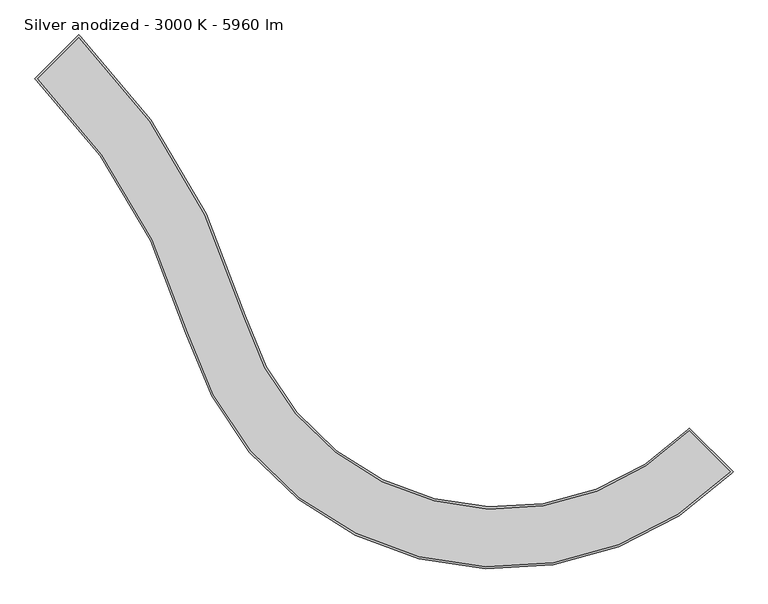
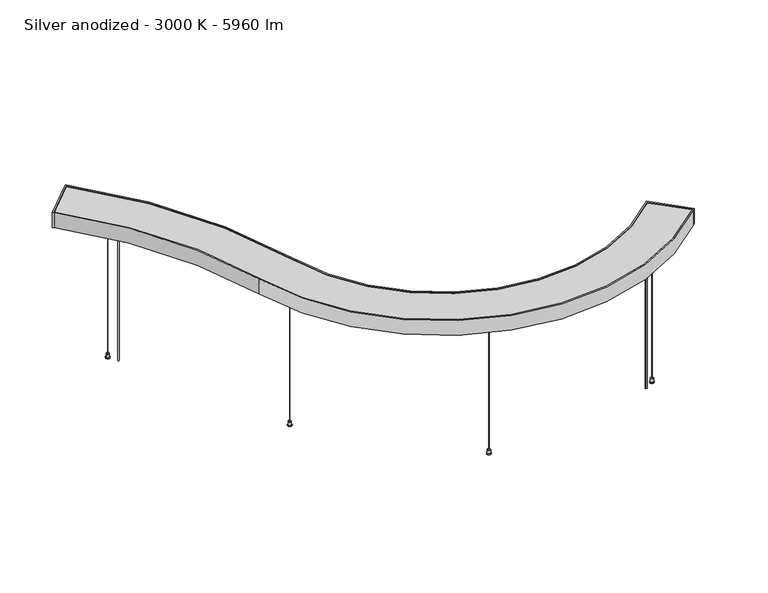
"""IFC4 building model written with IfcOpenShell, lengths in millimetres: light fixture geometry, KLUŚ - MIFOR - MI-SNAKE-03 : Silver anodized - 3000 K - 5960 lm."""

from ifc_helpers import new_model, si_unit, point, frame, frame_2d, origin, origin_with_axes, place, context, project, spatial, polyline, circle_curve, trimmed, segment, composite_curve, outline, extrude, source, transform, mapped, element, save


def silver_anodized_3000_k_5960_lm_fe325a2c(model_context):
    return source(origin(), model_context, "Body", "SweptSolid", [
        extrude(outline(composite_curve([segment(trimmed(circle_curve(frame_2d((672.9591709, -453.7760206)), 1.75), [point((674.7091709, -453.7760206))], [point((671.2091709, -453.7760206))], False, "CARTESIAN"), True, "CONTINUOUS"), segment(trimmed(circle_curve(frame_2d((672.9591709, -453.7760206)), 1.75), [point((671.2091709, -453.7760206))], [point((674.7091709, -453.7760206))], False, "CARTESIAN"), True, "CONTINUOUS")], self_intersect=False)), frame((0.0, 0.0, 500.5), z_axis=(0.0, 0.0, 1.0), x_axis=(1.0, 0.0, 0.0)), (0.0, 0.0, 1.0), 3.5),
        extrude(outline(composite_curve([segment(trimmed(circle_curve(frame_2d((58.0324122, -532.928288)), 1.75), [point((59.7824122, -532.928288))], [point((56.2824122, -532.928288))], False, "CARTESIAN"), True, "CONTINUOUS"), segment(trimmed(circle_curve(frame_2d((58.0324122, -532.928288)), 1.75), [point((56.2824122, -532.928288))], [point((59.7824122, -532.928288))], False, "CARTESIAN"), True, "CONTINUOUS")], self_intersect=False)), frame((0.0, 0.0, 500.5), z_axis=(0.0, 0.0, 1.0), x_axis=(1.0, 0.0, 0.0)), (0.0, 0.0, 1.0), 3.5),
        extrude(outline(composite_curve([segment(trimmed(circle_curve(frame_2d((-389.0451569, -103.1934485)), 1.75), [point((-387.2951569, -103.1934485))], [point((-390.7951569, -103.1934485))], False, "CARTESIAN"), True, "CONTINUOUS"), segment(trimmed(circle_curve(frame_2d((-389.0451569, -103.1934485)), 1.75), [point((-390.7951569, -103.1934485))], [point((-387.2951569, -103.1934485))], False, "CARTESIAN"), True, "CONTINUOUS")], self_intersect=False)), frame((0.0, 0.0, 500.5), z_axis=(0.0, 0.0, 1.0), x_axis=(1.0, 0.0, 0.0)), (0.0, 0.0, 1.0), 3.5),
        extrude(outline(composite_curve([segment(trimmed(circle_curve(frame_2d((-686.7353542, 481.8418012)), 1.75), [point((-684.9853542, 481.8418012))], [point((-688.4853542, 481.8418012))], False, "CARTESIAN"), True, "CONTINUOUS"), segment(trimmed(circle_curve(frame_2d((-686.7353542, 481.8418012)), 1.75), [point((-688.4853542, 481.8418012))], [point((-684.9853542, 481.8418012))], False, "CARTESIAN"), True, "CONTINUOUS")], self_intersect=False)), frame((0.0, 0.0, 500.5), z_axis=(0.0, 0.0, 1.0), x_axis=(1.0, 0.0, 0.0)), (0.0, 0.0, 1.0), 3.5),
        extrude(outline(composite_curve([segment(trimmed(circle_curve(frame_2d((672.9591709, -453.7760206)), 5.0), [point((677.9591709, -453.7760206))], [point((667.9591709, -453.7760206))], False, "CARTESIAN"), True, "CONTINUOUS"), segment(trimmed(circle_curve(frame_2d((672.9591709, -453.7760206)), 5.0), [point((667.9591709, -453.7760206))], [point((677.9591709, -453.7760206))], False, "CARTESIAN"), True, "CONTINUOUS")], self_intersect=False)), frame((0.0, 0.0, 3.0), z_axis=(0.0, 0.0, 1.0), x_axis=(1.0, 0.0, 0.0)), (0.0, 0.0, 1.0), 12.0),
        extrude(outline(composite_curve([segment(trimmed(circle_curve(frame_2d((58.0324122, -532.928288)), 5.0), [point((63.0324122, -532.928288))], [point((53.0324122, -532.928288))], False, "CARTESIAN"), True, "CONTINUOUS"), segment(trimmed(circle_curve(frame_2d((58.0324122, -532.928288)), 5.0), [point((53.0324122, -532.928288))], [point((63.0324122, -532.928288))], False, "CARTESIAN"), True, "CONTINUOUS")], self_intersect=False)), frame((0.0, 0.0, 3.0), z_axis=(0.0, 0.0, 1.0), x_axis=(1.0, 0.0, 0.0)), (0.0, 0.0, 1.0), 12.0),
        extrude(outline(composite_curve([segment(trimmed(circle_curve(frame_2d((-389.0451569, -103.1934485)), 5.0), [point((-384.0451569, -103.1934485))], [point((-394.0451569, -103.1934485))], False, "CARTESIAN"), True, "CONTINUOUS"), segment(trimmed(circle_curve(frame_2d((-389.0451569, -103.1934485)), 5.0), [point((-394.0451569, -103.1934485))], [point((-384.0451569, -103.1934485))], False, "CARTESIAN"), True, "CONTINUOUS")], self_intersect=False)), frame((0.0, 0.0, 3.0), z_axis=(0.0, 0.0, 1.0), x_axis=(1.0, 0.0, 0.0)), (0.0, 0.0, 1.0), 12.0),
        extrude(outline(composite_curve([segment(trimmed(circle_curve(frame_2d((-686.7353542, 481.8418012)), 5.0), [point((-681.7353542, 481.8418012))], [point((-691.7353542, 481.8418012))], False, "CARTESIAN"), True, "CONTINUOUS"), segment(trimmed(circle_curve(frame_2d((-686.7353542, 481.8418012)), 5.0), [point((-691.7353542, 481.8418012))], [point((-681.7353542, 481.8418012))], False, "CARTESIAN"), True, "CONTINUOUS")], self_intersect=False)), frame((0.0, 0.0, 3.0), z_axis=(0.0, 0.0, 1.0), x_axis=(1.0, 0.0, 0.0)), (0.0, 0.0, 1.0), 12.0),
        extrude(outline(composite_curve([segment(trimmed(circle_curve(frame_2d((642.6195188, -472.545118)), 2.5), [point((645.1195188, -472.545118))], [point((640.1195188, -472.545118))], False, "CARTESIAN"), True, "CONTINUOUS"), segment(trimmed(circle_curve(frame_2d((642.6195188, -472.545118)), 2.5), [point((640.1195188, -472.545118))], [point((645.1195188, -472.545118))], False, "CARTESIAN"), True, "CONTINUOUS")], self_intersect=False)), origin_with_axes(), (0.0, 0.0, 1.0), 516.0),
        extrude(outline(composite_curve([segment(trimmed(circle_curve(frame_2d((-665.6709543, 452.5331137)), 2.5), [point((-663.1709543, 452.5331137))], [point((-668.1709543, 452.5331137))], False, "CARTESIAN"), True, "CONTINUOUS"), segment(trimmed(circle_curve(frame_2d((-665.6709543, 452.5331137)), 2.5), [point((-668.1709543, 452.5331137))], [point((-663.1709543, 452.5331137))], False, "CARTESIAN"), True, "CONTINUOUS")], self_intersect=False)), origin_with_axes(), (0.0, 0.0, 1.0), 516.0),
        extrude(outline(composite_curve([segment(polyline([(-838.3688522, 541.0675454), (-739.3739028, 640.0624948)]), True, "CONTINUOUS"), segment(trimmed(circle_curve(frame_2d((-1853.9001753, -474.4637777)), 1576.1781702), [point((-739.3739028, 640.0624948))], [point((-340.279061, -34.8176171))], False, "CARTESIAN"), True, "CONTINUOUS"), segment(trimmed(circle_curve(frame_2d((281.522262, 145.7907014)), 647.5), [point((-340.279061, -34.8176171))], [point((739.3739028, -312.0609394))], True, "CARTESIAN"), True, "CONTINUOUS"), segment(polyline([(739.3739028, -312.0609394), (838.3688522, -411.0558887)]), True, "CONTINUOUS"), segment(trimmed(circle_curve(frame_2d((281.522262, 145.7907014)), 787.5), [point((838.3688522, -411.0558887))], [point((-474.7225903, -73.8680643))], False, "CARTESIAN"), True, "CONTINUOUS"), segment(trimmed(circle_curve(frame_2d((-1853.9001753, -474.4637777)), 1436.1781702), [point((-474.7225903, -73.8680643))], [point((-838.3688522, 541.0675454))], True, "CARTESIAN"), True, "CONTINUOUS")], self_intersect=False)), frame((0.0, 0.0, 516.0), z_axis=(0.0, 0.0, 1.0), x_axis=(1.0, 0.0, 0.0)), (0.0, 0.0, 1.0), 2.0),
        extrude(outline(composite_curve([segment(polyline([(-838.3688522, 541.0675454), (-739.3739028, 640.0624948)]), True, "CONTINUOUS"), segment(trimmed(circle_curve(frame_2d((-1853.9001753, -474.4637777)), 1576.1781702), [point((-739.3739028, 640.0624948))], [point((-340.279061, -34.8176171))], False, "CARTESIAN"), True, "CONTINUOUS"), segment(trimmed(circle_curve(frame_2d((281.522262, 145.7907014)), 647.5), [point((-340.279061, -34.8176171))], [point((739.3739028, -312.0609394))], True, "CARTESIAN"), True, "CONTINUOUS"), segment(polyline([(739.3739028, -312.0609394), (838.3688522, -411.0558887)]), True, "CONTINUOUS"), segment(trimmed(circle_curve(frame_2d((281.522262, 145.7907014)), 787.5), [point((838.3688522, -411.0558887))], [point((-474.7225903, -73.8680643))], False, "CARTESIAN"), True, "CONTINUOUS"), segment(trimmed(circle_curve(frame_2d((-1853.9001753, -474.4637777)), 1436.1781702), [point((-474.7225903, -73.8680643))], [point((-838.3688522, 541.0675454))], True, "CARTESIAN"), True, "CONTINUOUS")], self_intersect=False)), frame((0.0, 0.0, 551.0), z_axis=(0.0, 0.0, 1.0), x_axis=(1.0, 0.0, 0.0)), (0.0, 0.0, 1.0), 2.0),
        extrude(outline(composite_curve([segment(polyline([(-841.9043861, 537.5320115), (-845.43992, 541.0675454), (-739.3739028, 647.1335626), (-735.8383689, 643.5980287)]), True, "CONTINUOUS"), segment(trimmed(circle_curve(frame_2d((-1853.9001753, -474.4637777)), 1581.1781702), [point((-735.8383689, 643.5980287))], [point((-335.4775064, -33.4229582))], False, "CARTESIAN"), True, "CONTINUOUS"), segment(trimmed(circle_curve(frame_2d((281.522262, 145.7907014)), 642.5), [point((-335.4775064, -33.4229582))], [point((735.8383689, -308.5254055))], True, "CARTESIAN"), True, "CONTINUOUS"), segment(polyline([(735.8383689, -308.5254055), (739.3739028, -304.9898716), (845.43992, -411.0558887), (841.9043861, -414.5914226)]), True, "CONTINUOUS"), segment(trimmed(circle_curve(frame_2d((281.522262, 145.7907014)), 792.5), [point((841.9043861, -414.5914226))], [point((-479.5241449, -75.2627231))], False, "CARTESIAN"), True, "CONTINUOUS"), segment(trimmed(circle_curve(frame_2d((-1853.9001753, -474.4637777)), 1431.1781702), [point((-479.5241449, -75.2627231))], [point((-841.9043861, 537.5320115))], True, "CARTESIAN"), True, "CONTINUOUS")], self_intersect=False), holes=[composite_curve([segment(polyline([(-739.3739028, 640.0624948), (-838.3688522, 541.0675454)]), True, "CONTINUOUS"), segment(trimmed(circle_curve(frame_2d((-1853.9001753, -474.4637777)), 1436.1781702), [point((-838.3688522, 541.0675454))], [point((-474.7225903, -73.8680643))], False, "CARTESIAN"), True, "CONTINUOUS"), segment(trimmed(circle_curve(frame_2d((281.522262, 145.7907014)), 787.5), [point((-474.7225903, -73.8680643))], [point((838.3688522, -411.0558887))], True, "CARTESIAN"), True, "CONTINUOUS"), segment(polyline([(838.3688522, -411.0558887), (739.3739028, -312.0609394)]), True, "CONTINUOUS"), segment(trimmed(circle_curve(frame_2d((281.522262, 145.7907014)), 647.5), [point((739.3739028, -312.0609394))], [point((-340.279061, -34.8176171))], False, "CARTESIAN"), True, "CONTINUOUS"), segment(trimmed(circle_curve(frame_2d((-1853.9001753, -474.4637777)), 1576.1781702), [point((-340.279061, -34.8176171))], [point((-739.3739028, 640.0624948))], True, "CARTESIAN"), True, "CONTINUOUS")], self_intersect=False)]), frame((0.0, 0.0, 500.0), z_axis=(0.0, 0.0, 1.0), x_axis=(1.0, 0.0, 0.0)), (0.0, 0.0, 1.0), 55.0),
        extrude(outline(composite_curve([segment(trimmed(circle_curve(frame_2d((672.9591709, -453.7760206)), 0.5), [point((673.4591709, -453.7760206))], [point((672.4591709, -453.7760206))], False, "CARTESIAN"), True, "CONTINUOUS"), segment(trimmed(circle_curve(frame_2d((672.9591709, -453.7760206)), 0.5), [point((672.4591709, -453.7760206))], [point((673.4591709, -453.7760206))], False, "CARTESIAN"), True, "CONTINUOUS")], self_intersect=False)), frame((0.0, 0.0, 15.0), z_axis=(0.0, 0.0, 1.0), x_axis=(1.0, 0.0, 0.0)), (0.0, 0.0, 1.0), 485.5),
        extrude(outline(composite_curve([segment(trimmed(circle_curve(frame_2d((58.0324122, -532.928288)), 0.5), [point((58.5324122, -532.928288))], [point((57.5324122, -532.928288))], False, "CARTESIAN"), True, "CONTINUOUS"), segment(trimmed(circle_curve(frame_2d((58.0324122, -532.928288)), 0.5), [point((57.5324122, -532.928288))], [point((58.5324122, -532.928288))], False, "CARTESIAN"), True, "CONTINUOUS")], self_intersect=False)), frame((0.0, 0.0, 15.0), z_axis=(0.0, 0.0, 1.0), x_axis=(1.0, 0.0, 0.0)), (0.0, 0.0, 1.0), 485.5),
        extrude(outline(composite_curve([segment(trimmed(circle_curve(frame_2d((-389.0451569, -103.1934485)), 0.5), [point((-388.5451569, -103.1934485))], [point((-389.5451569, -103.1934485))], False, "CARTESIAN"), True, "CONTINUOUS"), segment(trimmed(circle_curve(frame_2d((-389.0451569, -103.1934485)), 0.5), [point((-389.5451569, -103.1934485))], [point((-388.5451569, -103.1934485))], False, "CARTESIAN"), True, "CONTINUOUS")], self_intersect=False)), frame((0.0, 0.0, 15.0), z_axis=(0.0, 0.0, 1.0), x_axis=(1.0, 0.0, 0.0)), (0.0, 0.0, 1.0), 485.5),
        extrude(outline(composite_curve([segment(trimmed(circle_curve(frame_2d((-686.7353542, 481.8418012)), 0.5), [point((-686.2353542, 481.8418012))], [point((-687.2353542, 481.8418012))], False, "CARTESIAN"), True, "CONTINUOUS"), segment(trimmed(circle_curve(frame_2d((-686.7353542, 481.8418012)), 0.5), [point((-687.2353542, 481.8418012))], [point((-686.2353542, 481.8418012))], False, "CARTESIAN"), True, "CONTINUOUS")], self_intersect=False)), frame((0.0, 0.0, 15.0), z_axis=(0.0, 0.0, 1.0), x_axis=(1.0, 0.0, 0.0)), (0.0, 0.0, 1.0), 485.5),
        extrude(outline(composite_curve([segment(trimmed(circle_curve(frame_2d((-686.7353542, 481.8418012)), 4.0), [point((-682.7353542, 481.8418012))], [point((-690.7353542, 481.8418012))], False, "CARTESIAN"), True, "CONTINUOUS"), segment(trimmed(circle_curve(frame_2d((-686.7353542, 481.8418012)), 4.0), [point((-690.7353542, 481.8418012))], [point((-682.7353542, 481.8418012))], False, "CARTESIAN"), True, "CONTINUOUS")], self_intersect=False)), frame((0.0, 0.0, 504.0), z_axis=(0.0, 0.0, 1.0), x_axis=(1.0, 0.0, 0.0)), (0.0, 0.0, 1.0), 12.0),
        extrude(outline(composite_curve([segment(trimmed(circle_curve(frame_2d((-389.0451569, -103.1934485)), 4.0), [point((-385.0451569, -103.1934485))], [point((-393.0451569, -103.1934485))], False, "CARTESIAN"), True, "CONTINUOUS"), segment(trimmed(circle_curve(frame_2d((-389.0451569, -103.1934485)), 4.0), [point((-393.0451569, -103.1934485))], [point((-385.0451569, -103.1934485))], False, "CARTESIAN"), True, "CONTINUOUS")], self_intersect=False)), frame((0.0, 0.0, 504.0), z_axis=(0.0, 0.0, 1.0), x_axis=(1.0, 0.0, 0.0)), (0.0, 0.0, 1.0), 12.0),
        extrude(outline(composite_curve([segment(trimmed(circle_curve(frame_2d((58.0324122, -532.928288)), 4.0), [point((62.0324122, -532.928288))], [point((54.0324122, -532.928288))], False, "CARTESIAN"), True, "CONTINUOUS"), segment(trimmed(circle_curve(frame_2d((58.0324122, -532.928288)), 4.0), [point((54.0324122, -532.928288))], [point((62.0324122, -532.928288))], False, "CARTESIAN"), True, "CONTINUOUS")], self_intersect=False)), frame((0.0, 0.0, 504.0), z_axis=(0.0, 0.0, 1.0), x_axis=(1.0, 0.0, 0.0)), (0.0, 0.0, 1.0), 12.0),
        extrude(outline(composite_curve([segment(trimmed(circle_curve(frame_2d((672.9591709, -453.7760206)), 4.0), [point((676.9591709, -453.7760206))], [point((668.9591709, -453.7760206))], False, "CARTESIAN"), True, "CONTINUOUS"), segment(trimmed(circle_curve(frame_2d((672.9591709, -453.7760206)), 4.0), [point((668.9591709, -453.7760206))], [point((676.9591709, -453.7760206))], False, "CARTESIAN"), True, "CONTINUOUS")], self_intersect=False)), frame((0.0, 0.0, 504.0), z_axis=(0.0, 0.0, 1.0), x_axis=(1.0, 0.0, 0.0)), (0.0, 0.0, 1.0), 12.0),
        extrude(outline(composite_curve([segment(trimmed(circle_curve(frame_2d((672.9591709, -453.7760206)), 7.0), [point((679.9591709, -453.7760206))], [point((665.9591709, -453.7760206))], False, "CARTESIAN"), True, "CONTINUOUS"), segment(trimmed(circle_curve(frame_2d((672.9591709, -453.7760206)), 7.0), [point((665.9591709, -453.7760206))], [point((679.9591709, -453.7760206))], False, "CARTESIAN"), True, "CONTINUOUS")], self_intersect=False)), origin_with_axes(), (0.0, 0.0, 1.0), 3.0),
        extrude(outline(composite_curve([segment(trimmed(circle_curve(frame_2d((58.0324122, -532.928288)), 7.0), [point((65.0324122, -532.928288))], [point((51.0324122, -532.928288))], False, "CARTESIAN"), True, "CONTINUOUS"), segment(trimmed(circle_curve(frame_2d((58.0324122, -532.928288)), 7.0), [point((51.0324122, -532.928288))], [point((65.0324122, -532.928288))], False, "CARTESIAN"), True, "CONTINUOUS")], self_intersect=False)), origin_with_axes(), (0.0, 0.0, 1.0), 3.0),
        extrude(outline(composite_curve([segment(trimmed(circle_curve(frame_2d((-389.0451569, -103.1934485)), 7.0), [point((-382.0451569, -103.1934485))], [point((-396.0451569, -103.1934485))], False, "CARTESIAN"), True, "CONTINUOUS"), segment(trimmed(circle_curve(frame_2d((-389.0451569, -103.1934485)), 7.0), [point((-396.0451569, -103.1934485))], [point((-382.0451569, -103.1934485))], False, "CARTESIAN"), True, "CONTINUOUS")], self_intersect=False)), origin_with_axes(), (0.0, 0.0, 1.0), 3.0),
        extrude(outline(composite_curve([segment(trimmed(circle_curve(frame_2d((-686.7353542, 481.8418012)), 7.0), [point((-679.7353542, 481.8418012))], [point((-693.7353542, 481.8418012))], False, "CARTESIAN"), True, "CONTINUOUS"), segment(trimmed(circle_curve(frame_2d((-686.7353542, 481.8418012)), 7.0), [point((-693.7353542, 481.8418012))], [point((-679.7353542, 481.8418012))], False, "CARTESIAN"), True, "CONTINUOUS")], self_intersect=False)), origin_with_axes(), (0.0, 0.0, 1.0), 3.0),
    ])


if __name__ == "__main__":
    model = new_model("IFC4")
    model_context = context("Model", 3, world=origin())
    ifc_project = project(units=[si_unit("LENGTHUNIT", "METRE", prefix="MILLI")], contexts=[model_context])
    site = spatial("IfcSite", under=ifc_project)
    building = spatial("IfcBuilding", under=site)
    placement = place(None, origin())
    silver_anodized_3000_k_5960_lm_shape = silver_anodized_3000_k_5960_lm_fe325a2c(model_context)
    element("IfcLightFixture", 1, ObjectType="KLUŚ - MIFOR - MI-SNAKE-03 : Silver anodized - 3000 K - 5960 lm", at=placement, inside=building, context=model_context, shape_type="MappedRepresentation", body=[
        mapped(silver_anodized_3000_k_5960_lm_shape, transform((0.0, 0.0, 0.0), x_axis=(1.0, 0.0, 0.0), y_axis=(0.0, 1.0, 0.0), z_axis=(0.0, 0.0, 1.0))),
    ])
    save(model, "model.ifc")
